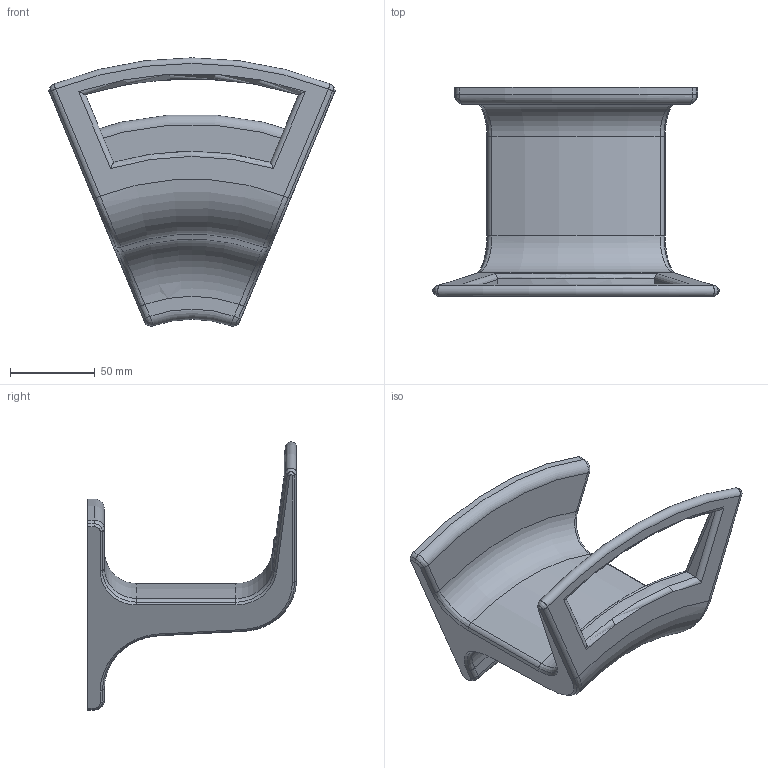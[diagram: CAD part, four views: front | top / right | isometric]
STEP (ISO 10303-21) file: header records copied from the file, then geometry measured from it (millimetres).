
FILE_DESCRIPTION(('FreeCAD Model'),'2;1');
FILE_NAME('Open CASCADE Shape Model','2025-10-03T20:24:53',(''),(''), 'Open CASCADE STEP processor 7.8','FreeCAD','Unknown');
FILE_SCHEMA(('AUTOMOTIVE_DESIGN { 1 0 10303 214 1 1 1 1 }'));
Length unit declared in the file: millimetre
Products named in the file (1): Body
Bounding box: 168.96 x 123.26 x 158.25 mm (x, y, z)
Volume: 467001.4 mm3; surface area: 68020.7 mm2
Topology: 1 solids, 1 shells, 110 faces, 268 edges, 156 vertices
Faces by surface type: bspline 60, plane 20, cylinder 19, torus 9, cone 2
Entity records: 10010 total; most frequent: CARTESIAN_POINT 8105, ORIENTED_EDGE 528, EDGE_CURVE 264, DIRECTION 230, VERTEX_POINT 156, FACE_BOUND 112, EDGE_LOOP 112, ADVANCED_FACE 110
